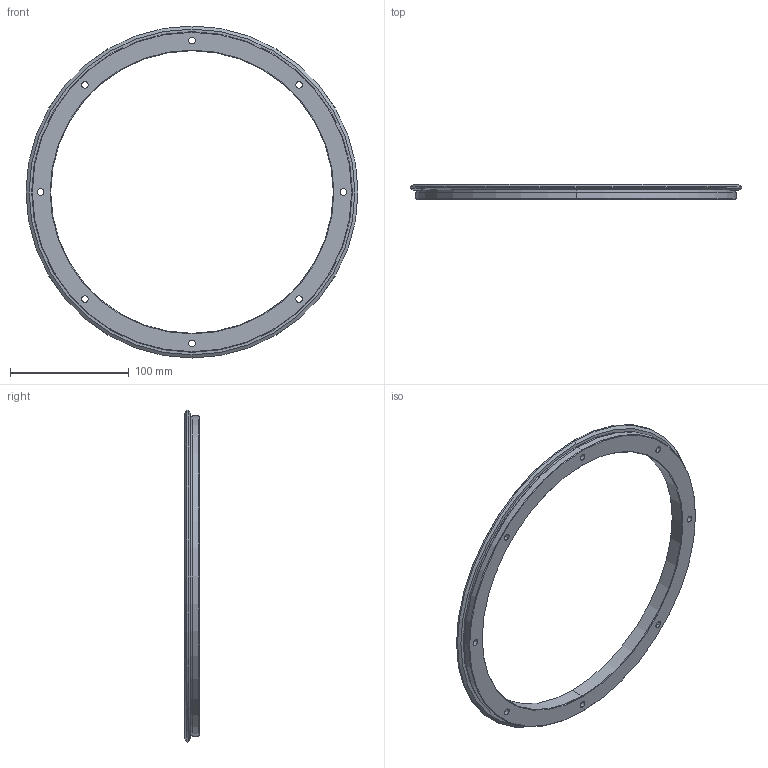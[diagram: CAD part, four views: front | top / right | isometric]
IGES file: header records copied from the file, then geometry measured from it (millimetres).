
Start section: 3D InterOp IGES (Version 21 0 1), Spatial Corp. Copyright (c) 1999-2007.
Global section: file name: RES 280 R360.igs; native system: Spatial Corp.; preprocessor: 3D InterOp GENERIC/IGES 3.0; author: Noname; organization: Noname; date: 20220624.171014; units: millimetre
Bounding box: 279.59 x 12.25 x 279.6 mm (x, y, z)
Surface area: 53603.3 mm2 (no closed solid volume)
Topology: 0 solids, 0 shells, 60 faces, 272 edges, 272 vertices
Faces by surface type: revolution 48, extrusion 12
